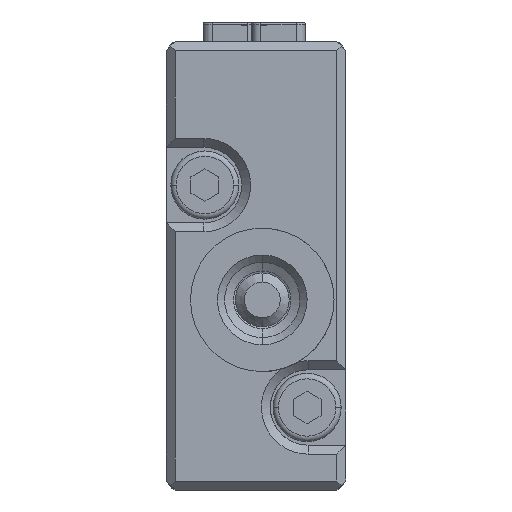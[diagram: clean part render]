
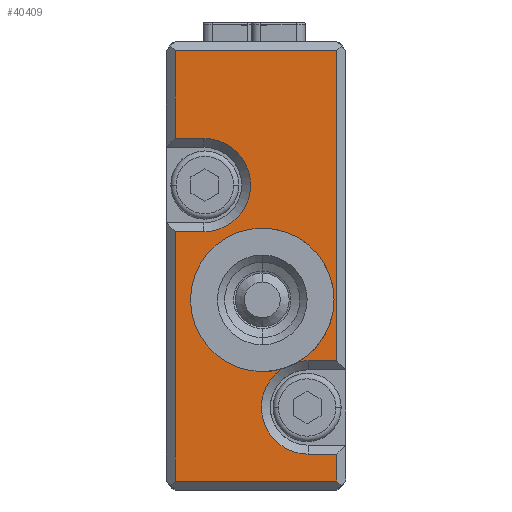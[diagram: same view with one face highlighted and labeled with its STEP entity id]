
A CAD part, left-side view. The second image highlights one B-rep face of the part: STEP entity #40409.
In plain terms, the highlighted planar face has unit normal (-1, 0, 0).
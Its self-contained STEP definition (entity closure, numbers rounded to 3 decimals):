
#4172=CARTESIAN_POINT('',(-34.5,4.55,-1.8));
#4173=DIRECTION('',(-1.,0.,0.));
#4174=DIRECTION('',(0.,0.,-1.));
#4175=AXIS2_PLACEMENT_3D('',#4172,#4173,#4174);
#4177=CARTESIAN_POINT('',(-34.5,2.,-7.8));
#4178=DIRECTION('',(1.,0.,0.));
#4179=DIRECTION('',(0.,0.,-1.));
#4180=AXIS2_PLACEMENT_3D('',#4177,#4178,#4179);
#4182=DIRECTION('',(0.,1.,0.));
#4183=VECTOR('',#4182,1.6);
#4184=CARTESIAN_POINT('',(-34.5,0.4,-10.4));
#4185=LINE('',#4184,#4183);
#4186=DIRECTION('',(0.,0.,-1.));
#4187=VECTOR('',#4186,1.5);
#4188=CARTESIAN_POINT('',(-34.5,0.4,-10.4));
#4189=LINE('',#4188,#4187);
#4190=DIRECTION('',(0.,1.,0.));
#4191=VECTOR('',#4190,9.);
#4192=CARTESIAN_POINT('',(-34.5,0.4,-11.9));
#4193=LINE('',#4192,#4191);
#4194=DIRECTION('',(0.,0.,-1.));
#4195=VECTOR('',#4194,13.9);
#4196=CARTESIAN_POINT('',(-34.5,9.4,2.));
#4197=LINE('',#4196,#4195);
#4198=DIRECTION('',(0.,1.,0.));
#4199=VECTOR('',#4198,1.6);
#4200=CARTESIAN_POINT('',(-34.5,7.8,2.));
#4201=LINE('',#4200,#4199);
#4202=CARTESIAN_POINT('',(-34.5,7.8,4.6));
#4203=DIRECTION('',(1.,0.,0.));
#4204=DIRECTION('',(0.,0.,1.));
#4205=AXIS2_PLACEMENT_3D('',#4202,#4203,#4204);
#4207=DIRECTION('',(0.,-1.,0.));
#4208=VECTOR('',#4207,1.6);
#4209=CARTESIAN_POINT('',(-34.5,9.4,7.2));
#4210=LINE('',#4209,#4208);
#4211=DIRECTION('',(0.,0.,-1.));
#4212=VECTOR('',#4211,4.9);
#4213=CARTESIAN_POINT('',(-34.5,9.4,12.1));
#4214=LINE('',#4213,#4212);
#4215=DIRECTION('',(0.,-1.,0.));
#4216=VECTOR('',#4215,9.);
#4217=CARTESIAN_POINT('',(-34.5,9.4,12.1));
#4218=LINE('',#4217,#4216);
#4219=DIRECTION('',(0.,0.,-1.));
#4220=VECTOR('',#4219,17.3);
#4221=CARTESIAN_POINT('',(-34.5,0.4,12.1));
#4222=LINE('',#4221,#4220);
#4223=DIRECTION('',(0.,-1.,0.));
#4224=VECTOR('',#4223,1.6);
#4225=CARTESIAN_POINT('',(-34.5,2.,
-5.2));
#4226=LINE('',#4225,#4224);
#4227=CARTESIAN_POINT('',(-34.5,2.,-7.8));
#4228=DIRECTION('',(1.,0.,0.));
#4229=DIRECTION('',(0.,0.206,0.979));
#4230=AXIS2_PLACEMENT_3D('',#4227,#4228,#4229);
#4232=CARTESIAN_POINT('',(-34.5,4.55,-1.8));
#4233=DIRECTION('',(-1.,0.,0.));
#4234=DIRECTION('',(0.,-0.504,-0.864));
#4235=AXIS2_PLACEMENT_3D('',#4232,#4233,#4234);
#4237=CARTESIAN_POINT('',(-34.5,4.55,-1.8));
#4238=DIRECTION('',(-1.,0.,0.));
#4239=DIRECTION('',(0.,0.,1.));
#4240=AXIS2_PLACEMENT_3D('',#4237,#4238,#4239);
#35369=CARTESIAN_POINT('',(-34.5,9.4,12.1));
#35370=CARTESIAN_POINT('',(-34.5,0.4,12.1));
#35371=VERTEX_POINT('',#35369);
#35372=VERTEX_POINT('',#35370);
#35387=CARTESIAN_POINT('',(-34.5,0.4,-11.9));
#35388=CARTESIAN_POINT('',(-34.5,9.4,-11.9));
#35389=VERTEX_POINT('',#35387);
#35390=VERTEX_POINT('',#35388);
#35406=CARTESIAN_POINT('',(-34.5,0.4,-10.4));
#35408=VERTEX_POINT('',#35406);
#35409=CARTESIAN_POINT('',(-34.5,2.,
-10.4));
#35410=VERTEX_POINT('',#35409);
#35414=CARTESIAN_POINT('',(-34.5,9.4,7.2));
#35416=VERTEX_POINT('',#35414);
#35417=CARTESIAN_POINT('',(-34.5,7.8,
7.2));
#35418=VERTEX_POINT('',#35417);
#35423=CARTESIAN_POINT('',(-34.5,0.4,-5.2));
#35424=VERTEX_POINT('',#35423);
#35435=CARTESIAN_POINT('',(-34.5,2.,
-5.2));
#35436=VERTEX_POINT('',#35435);
#35437=CARTESIAN_POINT('',(-34.5,9.4,2.));
#35439=VERTEX_POINT('',#35437);
#35443=CARTESIAN_POINT('',(-34.5,7.8,
2.));
#35444=VERTEX_POINT('',#35443);
#35495=CARTESIAN_POINT('',(-34.5,4.55,-5.8));
#35496=CARTESIAN_POINT('',(-34.5,3.46,-5.649));
#35497=VERTEX_POINT('',#35495);
#35498=VERTEX_POINT('',#35496);
#35499=CARTESIAN_POINT('',(-34.5,2.536,-5.256));
#35500=CARTESIAN_POINT('',(-34.5,4.55,2.2));
#35501=VERTEX_POINT('',#35499);
#35502=VERTEX_POINT('',#35500);
#40372=CARTESIAN_POINT('',(-34.5,9.9,-12.4));
#40373=DIRECTION('',(-1.,0.,0.));
#40374=DIRECTION('',(0.,-1.,0.));
#40375=AXIS2_PLACEMENT_3D('',#40372,#40373,#40374);
#40376=PLANE('',#40375);
#40377=ORIENTED_EDGE('',*,*,#40358,.T.);
#40379=ORIENTED_EDGE('',*,*,#40378,.F.);
#40381=ORIENTED_EDGE('',*,*,#40380,.F.);
#40383=ORIENTED_EDGE('',*,*,#40382,.T.);
#40385=ORIENTED_EDGE('',*,*,#40384,.T.);
#40387=ORIENTED_EDGE('',*,*,#40386,.F.);
#40389=ORIENTED_EDGE('',*,*,#40388,.F.);
#40391=ORIENTED_EDGE('',*,*,#40390,.F.);
#40393=ORIENTED_EDGE('',*,*,#40392,.F.);
#40395=ORIENTED_EDGE('',*,*,#40394,.F.);
#40397=ORIENTED_EDGE('',*,*,#40396,.T.);
#40399=ORIENTED_EDGE('',*,*,#40398,.T.);
#40401=ORIENTED_EDGE('',*,*,#40400,.F.);
#40403=ORIENTED_EDGE('',*,*,#40402,.F.);
#40404=ORIENTED_EDGE('',*,*,#40365,.T.);
#40406=ORIENTED_EDGE('',*,*,#40405,.T.);
#40407=EDGE_LOOP('',(#40377,#40379,#40381,#40383,#40385,#40387,#40389,#40391,
#40393,#40395,#40397,#40399,#40401,#40403,#40404,#40406));
#40408=FACE_OUTER_BOUND('',#40407,.F.);
#40409=ADVANCED_FACE('',(#40408),#40376,.T.);
#4176=CIRCLE('',#4175,4.);
#4181=CIRCLE('',#4180,2.6);
#4206=CIRCLE('',#4205,2.6);
#4231=CIRCLE('',#4230,2.6);
#4236=CIRCLE('',#4235,4.);
#4241=CIRCLE('',#4240,4.);
#40358=EDGE_CURVE('',#35497,#35498,#4176,.T.);
#40365=EDGE_CURVE('',#35501,#35502,#4236,.T.);
#40378=EDGE_CURVE('',#35410,#35498,#4181,.T.);
#40380=EDGE_CURVE('',#35408,#35410,#4185,.T.);
#40382=EDGE_CURVE('',#35408,#35389,#4189,.T.);
#40384=EDGE_CURVE('',#35389,#35390,#4193,.T.);
#40386=EDGE_CURVE('',#35439,#35390,#4197,.T.);
#40388=EDGE_CURVE('',#35444,#35439,#4201,.T.);
#40390=EDGE_CURVE('',#35418,#35444,#4206,.T.);
#40392=EDGE_CURVE('',#35416,#35418,#4210,.T.);
#40394=EDGE_CURVE('',#35371,#35416,#4214,.T.);
#40396=EDGE_CURVE('',#35371,#35372,#4218,.T.);
#40398=EDGE_CURVE('',#35372,#35424,#4222,.T.);
#40400=EDGE_CURVE('',#35436,#35424,#4226,.T.);
#40402=EDGE_CURVE('',#35501,#35436,#4231,.T.);
#40405=EDGE_CURVE('',#35502,#35497,#4241,.T.);
